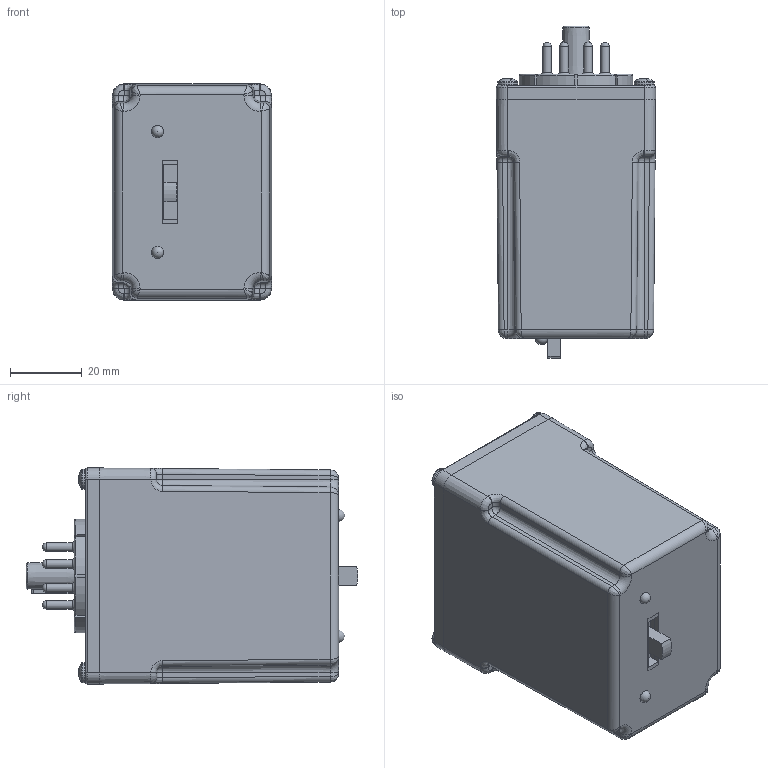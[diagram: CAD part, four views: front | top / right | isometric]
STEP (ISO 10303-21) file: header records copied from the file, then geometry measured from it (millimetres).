
FILE_DESCRIPTION(('FreeCAD Model'),'2;1');
FILE_NAME('Open CASCADE Shape Model','2023-06-06T11:54:10',(''),(''), 'Open CASCADE STEP processor 7.6','FreeCAD','Unknown');
FILE_SCHEMA(('AUTOMOTIVE_DESIGN { 1 0 10303 214 1 1 1 1 }'));
Products named in the file (1): Compound
Bounding box: 44.45 x 92.68 x 60.33 mm (x, y, z)
Surface area: 44060.3 mm2 (no closed solid volume)
Topology: 0 solids, 21 shells, 1869 faces, 4783 edges, 2967 vertices
Faces by surface type: plane 710, cylinder 683, bspline 200, torus 121, sphere 58, cone 57, revolution 40
Full cylindrical faces by diameter (mm): 0.254 x16, 1.257 x8, 1.714 x8, 1.905 x16, 2.362 x16, 2.464 x8, 3.175 x4, 4.191 x8, 7.925 x1
Entity records: 175308 total; most frequent: CARTESIAN_POINT 85298, DIRECTION 15394, ORIENTED_EDGE 9418, PCURVE 9418, DEFINITIONAL_REPRESENTATION 9418, LINE 9190, VECTOR 9190, EDGE_CURVE 4717
